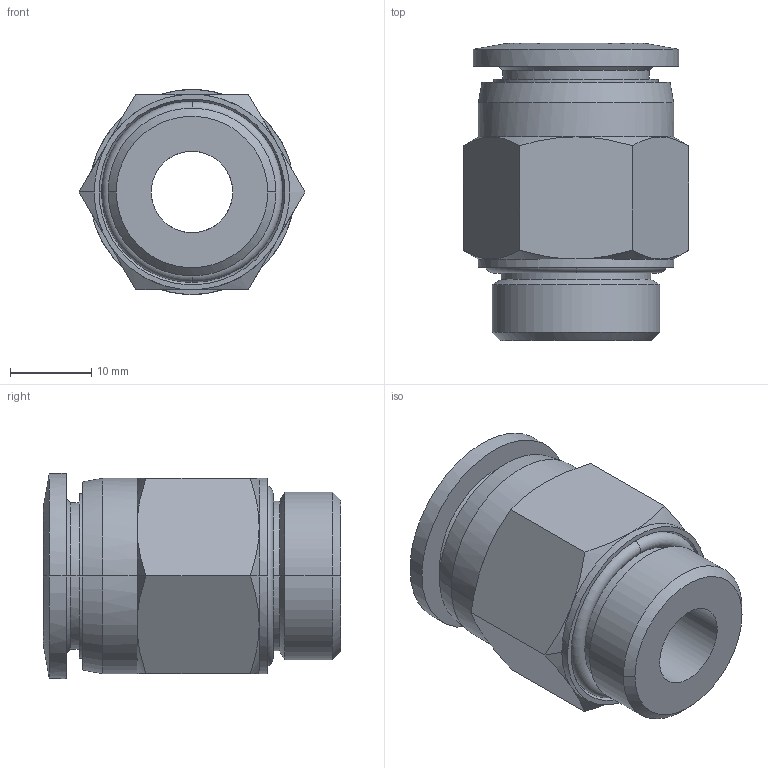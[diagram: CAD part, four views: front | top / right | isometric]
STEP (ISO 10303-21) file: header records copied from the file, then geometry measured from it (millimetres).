
FILE_DESCRIPTION (( 'STEP AP203' ), '1' );
FILE_NAME ('FH16-04.STEP', '2020-05-06T14:38:08', ( '' ), ( '' ), 'SwSTEP 2.0', 'SolidWorks 2019', '' );
FILE_SCHEMA (( 'CONFIG_CONTROL_DESIGN' ));
Length unit declared in the file: millimetre
Products named in the file (1): FH16-04
Bounding box: 27.71 x 36.5 x 25.19 mm (x, y, z)
Surface area: 6094.4 mm2 (no closed solid volume)
Topology: 0 solids, 4 shells, 66 faces, 150 edges, 92 vertices
Faces by surface type: cone 26, cylinder 20, plane 14, torus 6
Entity records: 3238 total; most frequent: CARTESIAN_POINT 1911, ORIENTED_EDGE 284, DIRECTION 180, EDGE_CURVE 150, B_SPLINE_CURVE_WITH_KNOTS 110, VERTEX_POINT 92, EDGE_LOOP 74, AXIS2_PLACEMENT_3D 73
